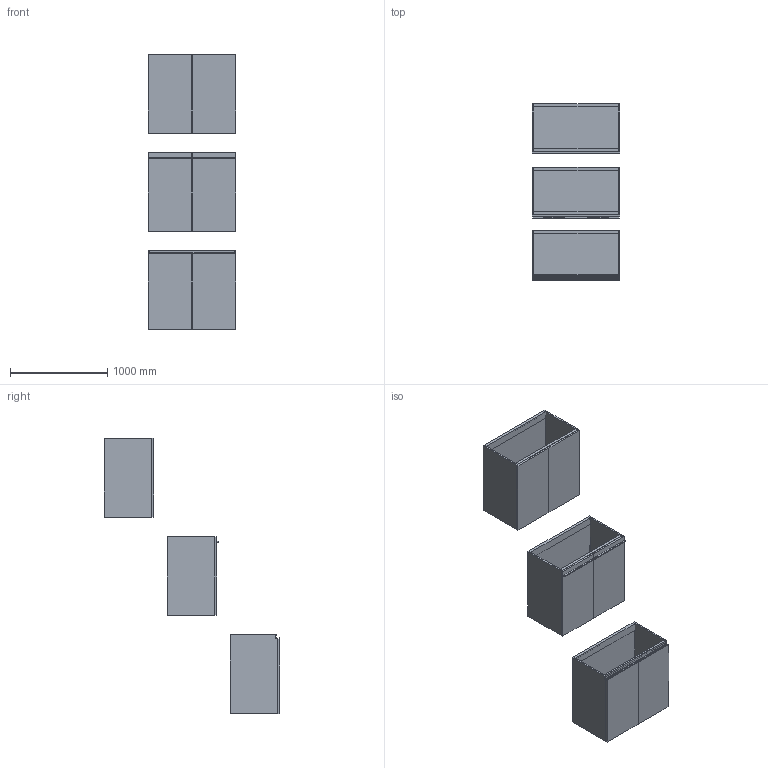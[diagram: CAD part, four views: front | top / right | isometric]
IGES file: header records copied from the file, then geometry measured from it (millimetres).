
Start section: Data from Parasolid IGES Translator 19.0.9, Copyright(c) 2006 Siemens PL M Software. All Rights Reserved.
Global section: file name: noorth-SI-H 81,2 D 51 W 90_9726.igs; native system: By Siemens PLM Incorporated; preprocessor: XPlus GENERIC/IGES 19.0.9; author: Noname; organization: Noname; date: 20200601.141247; units: metre
Bounding box: 900 x 1807.1 x 2832.01 mm (x, y, z)
Volume: 112654765.5 mm3; surface area: 17301741.6 mm2
Topology: 27 solids, 27 shells, 264 faces, 566 edges, 336 vertices
Faces by surface type: plane 180, extrusion 32, bspline 32, cylinder 20
